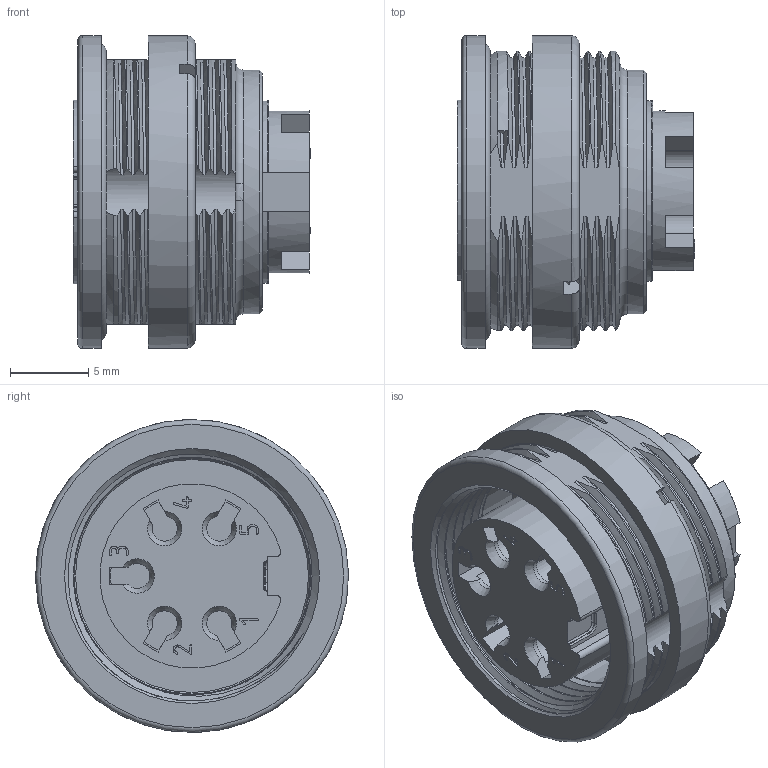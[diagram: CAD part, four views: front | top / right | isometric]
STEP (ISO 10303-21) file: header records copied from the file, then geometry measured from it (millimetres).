
FILE_DESCRIPTION(/* description */ (''),/* implementation_level */ '2;1');
FILE_NAME(/* name */ '09 0174 700 08 001_00-Flanschdose.stp',/* time_stamp */ '2017-08-01T09:16:37+02:00',/* author */ (''),/* organization */ (''),/* preprocessor_version */ 'ST-DEVELOPER v16',/* originating_system */ 'SIEMENS PLM Software NX 11.0',/* authorisation */ '');
FILE_SCHEMA (('AUTOMOTIVE_DESIGN { 1 0 10303 214 3 1 1 1 }'));
Products named in the file (1): smag0BF8E686zojk
Bounding box: 15.2 x 20 x 20 mm (x, y, z)
Volume: 2618.4 mm3; surface area: 3652 mm2
Topology: 2 solids, 2 shells, 444 faces, 1255 edges, 830 vertices
Faces by surface type: plane 169, cylinder 152, bspline 66, extrusion 24, cone 19, torus 14
Full cylindrical faces by diameter (mm): 13.8 x1, 13.85 x1, 14.9 x1, 15.1 x1, 15.6 x1, 17.188 x1, 18.1 x1, 20 x2
Entity records: 56647 total; most frequent: CARTESIAN_POINT 46100, ORIENTED_EDGE 2444, DIRECTION 1741, EDGE_CURVE 1222, VERTEX_POINT 818, VECTOR 595, AXIS2_PLACEMENT_3D 573, LINE 571
